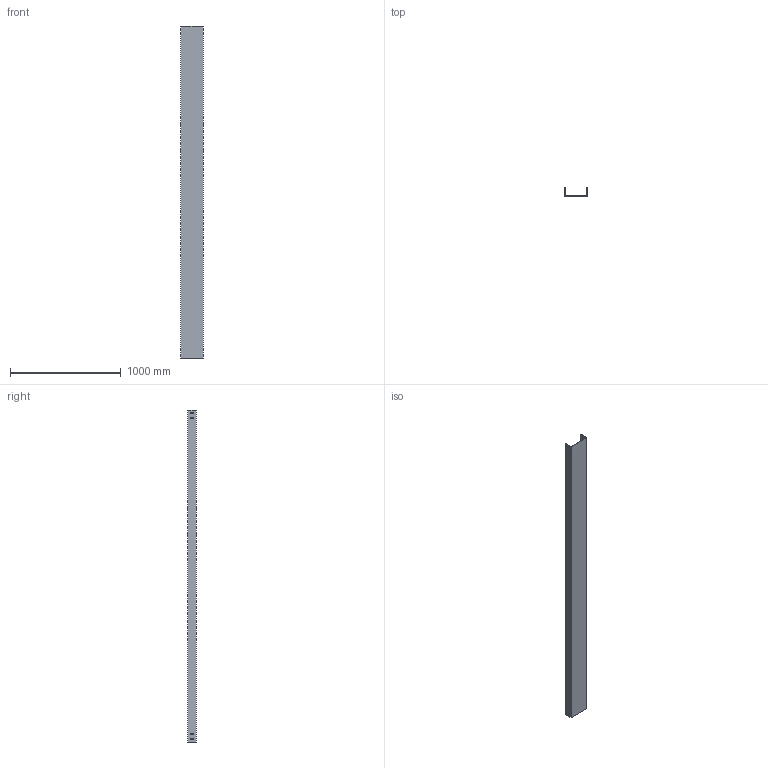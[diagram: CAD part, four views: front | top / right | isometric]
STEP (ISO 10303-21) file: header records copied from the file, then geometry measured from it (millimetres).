
FILE_DESCRIPTION (( 'STEP AP214' ), '1' );
FILE_NAME ('CC_207.step', '2025-07-16T09:04:13', ( '' ), ( '' ), 'SwSTEP 2.0', 'SolidWorks 2023', '' );
FILE_SCHEMA (( 'AUTOMOTIVE_DESIGN' ));
Length unit declared in the file: millimetre
Products named in the file (1): CC_207
Bounding box: 200 x 75 x 3000 mm (x, y, z)
Volume: 1559820 mm3; surface area: 2090617 mm2
Topology: 1 solids, 1 shells, 74 faces, 216 edges, 144 vertices
Faces by surface type: plane 74
Entity records: 2487 total; most frequent: CARTESIAN_POINT 435, ORIENTED_EDGE 432, DIRECTION 366, VECTOR 216, EDGE_CURVE 216, LINE 216, VERTEX_POINT 144, EDGE_LOOP 106
